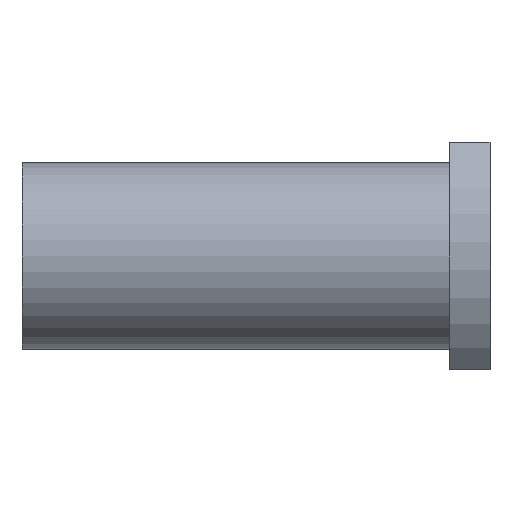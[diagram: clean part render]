
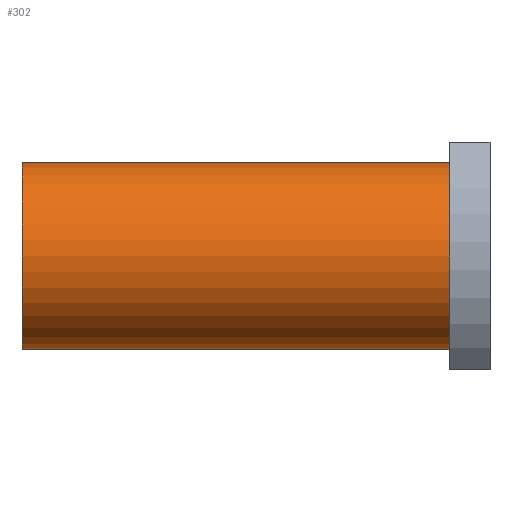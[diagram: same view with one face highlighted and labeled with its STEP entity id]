
A CAD part, front view. The second image highlights one B-rep face of the part: STEP entity #302.
In plain terms, the highlighted cylindrical face has radius 14 mm (diameter 28 mm), a full revolution.
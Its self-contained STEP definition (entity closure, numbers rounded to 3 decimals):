
#37=CYLINDRICAL_SURFACE('',#346,14.);
#60=ORIENTED_EDGE('',*,*,#124,.T.);
#61=ORIENTED_EDGE('',*,*,#125,.F.);
#124=EDGE_CURVE('',#156,#156,#182,.T.);
#125=EDGE_CURVE('',#157,#157,#183,.T.);
#156=VERTEX_POINT('',#508);
#157=VERTEX_POINT('',#510);
#182=CIRCLE('',#347,14.);
#183=CIRCLE('',#348,14.);
#205=EDGE_LOOP('',(#60));
#206=EDGE_LOOP('',(#61));
#251=FACE_BOUND('',#205,.T.);
#252=FACE_BOUND('',#206,.T.);
#302=ADVANCED_FACE('',(#251,#252),#37,.T.);
#346=AXIS2_PLACEMENT_3D('',#506,#410,#411);
#347=AXIS2_PLACEMENT_3D('',#507,#412,#413);
#348=AXIS2_PLACEMENT_3D('',#509,#414,#415);
#410=DIRECTION('',(-1.,0.,0.));
#411=DIRECTION('',(0.,0.,1.));
#412=DIRECTION('',(1.,0.,0.));
#413=DIRECTION('',(0.,0.,-1.));
#414=DIRECTION('',(1.,0.,0.));
#415=DIRECTION('',(0.,0.,-1.));
#506=CARTESIAN_POINT('',(35.,0.,0.));
#507=CARTESIAN_POINT('',(-35.,0.,0.));
#508=CARTESIAN_POINT('',(-35.,0.,-14.));
#509=CARTESIAN_POINT('',(29.,0.,0.));
#510=CARTESIAN_POINT('',(29.,0.,-14.));
